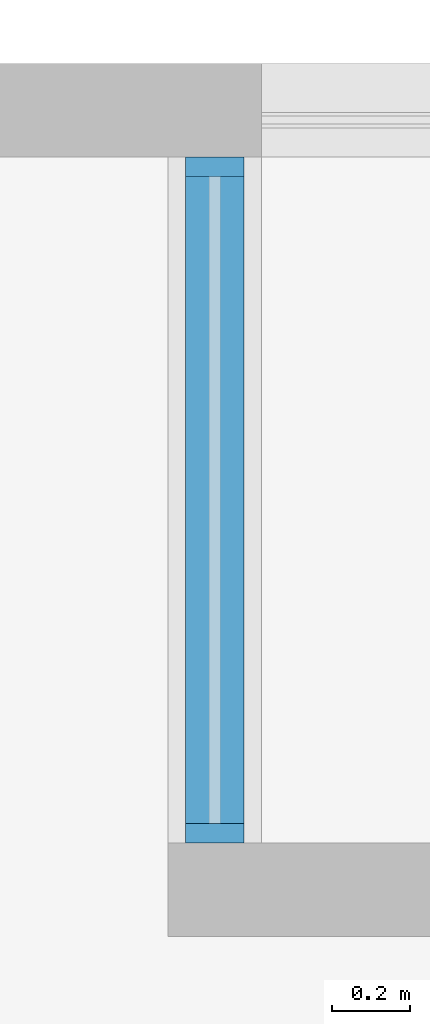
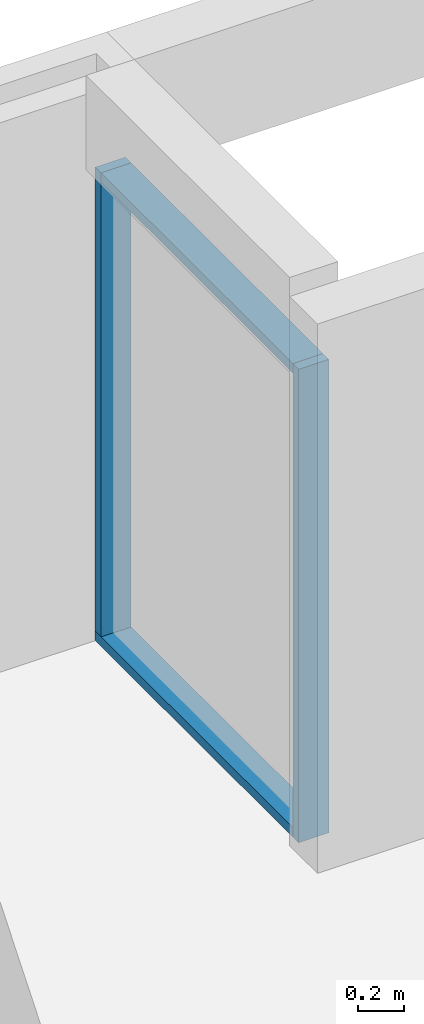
# One storey, part 2 of 16: 4 members, 1 element without a shape of its own.
"""IFC2X3 building model written with IfcOpenShell, lengths in millimetres."""

from ifc_helpers import new_model, entity, si_unit, converted_unit, derived_unit, direction, frame, origin, origin_2d_with_axis, place, context, subcontext, project, spatial, rectangle, extrude, source, transform, mapped, material, type_object, type_shapes, element, aggregate, save


model = new_model("IFC2X3")

# Units and contexts
model_context = context("Model", 3, precision=0.01, world=origin(), true_north=direction((6.12303176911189e-17, 1.0)))
body_context = subcontext(model_context, "Body", "Model", "MODEL_VIEW")
ifc_project = project(units=[si_unit("LENGTHUNIT", "METRE", prefix="MILLI"), si_unit("AREAUNIT", "SQUARE_METRE"), si_unit("VOLUMEUNIT", "CUBIC_METRE"), converted_unit("PLANEANGLEUNIT", "DEGREE", entity("IfcRatioMeasure", 0.0174532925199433), si_unit("PLANEANGLEUNIT", "RADIAN"), dimensions=[0, 0, 0, 0, 0, 0, 0]), si_unit("MASSUNIT", "GRAM", prefix="KILO"), derived_unit("MASSDENSITYUNIT", [(si_unit("MASSUNIT", "GRAM", prefix="KILO"), 1), (si_unit("LENGTHUNIT", "METRE"), -3)]), si_unit("TIMEUNIT", "SECOND"), si_unit("FREQUENCYUNIT", "HERTZ"), si_unit("THERMODYNAMICTEMPERATUREUNIT", "DEGREE_CELSIUS"), derived_unit("THERMALTRANSMITTANCEUNIT", [(si_unit("MASSUNIT", "GRAM", prefix="KILO"), 1), (si_unit("THERMODYNAMICTEMPERATUREUNIT", "KELVIN"), -1), (si_unit("TIMEUNIT", "SECOND"), -3)]), derived_unit("VOLUMETRICFLOWRATEUNIT", [(si_unit("LENGTHUNIT", "METRE"), 3), (si_unit("TIMEUNIT", "SECOND"), -1)]), si_unit("ELECTRICCURRENTUNIT", "AMPERE"), si_unit("ELECTRICVOLTAGEUNIT", "VOLT"), si_unit("POWERUNIT", "WATT"), si_unit("FORCEUNIT", "NEWTON", prefix="KILO"), si_unit("ILLUMINANCEUNIT", "LUX"), si_unit("LUMINOUSFLUXUNIT", "LUMEN"), si_unit("LUMINOUSINTENSITYUNIT", "CANDELA"), derived_unit("USERDEFINED", [(si_unit("MASSUNIT", "GRAM", prefix="KILO"), -1), (si_unit("LENGTHUNIT", "METRE"), -2), (si_unit("TIMEUNIT", "SECOND"), 3), (si_unit("LUMINOUSFLUXUNIT", "LUMEN"), 1)]), derived_unit("LINEARVELOCITYUNIT", [(si_unit("LENGTHUNIT", "METRE"), 1), (si_unit("TIMEUNIT", "SECOND"), -1)]), si_unit("PRESSUREUNIT", "PASCAL"), derived_unit("USERDEFINED", [(si_unit("LENGTHUNIT", "METRE"), -2), (si_unit("MASSUNIT", "GRAM", prefix="KILO"), 1), (si_unit("TIMEUNIT", "SECOND"), -2)])], contexts=[model_context])

# Site, building, storey
site_placement = place(None, origin())
site = spatial("IfcSite", under=ifc_project, at=site_placement, Name="表面", CompositionType="ELEMENT")
building_placement = place(site_placement, origin())
building = spatial("IfcBuilding", under=site, at=building_placement, CompositionType="ELEMENT")
storey_placement = place(building_placement, frame((0.0, 0.0, 3000.0)))
storey = spatial("IfcBuildingStorey", under=building, at=storey_placement, Name="2F", CompositionType="ELEMENT", Elevation=3000.00000000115)

# Curtain wall, members
curtain_wall_type = type_object("IfcCurtainWallType", Name="幕墙:幕墙 2", PredefinedType="NOTDEFINED")
curtain_wall_placement = place(storey_placement, frame((0.0, 0.0, -3000.0)))
curtain_wall = element("IfcCurtainWall", 1, at=curtain_wall_placement, inside=storey, type_object=curtain_wall_type, Name="幕墙:幕墙 2", ObjectType="幕墙:幕墙 2")
ifc_material = material(Name="金属 - 铝")
member_type_1 = type_object("IfcMemberType", Name="50 x 150mm", PredefinedType="MEMBER")
shared_shape_1 = source(origin(), body_context, "Body", "SweptSolid", [
    extrude(rectangle(XDim=150.0, YDim=50.0, at=origin_2d_with_axis()), frame((-25.0, 0.0, -1660.0), z_axis=(0.0, 0.0, 1.0), x_axis=(0.0, -1.0, 0.0)), (0.0, 0.0, 1.0), 1660.0),
])
type_shapes(member_type_1, [shared_shape_1])
member_1_placement = place(storey_placement, frame((-12030.2499126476, 3853.13157334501, 2500.0), z_axis=(0.0, -1.0, 0.0), x_axis=(0.0, 0.0, 1.0)))
member_1 = element("IfcMember", 2, at=member_1_placement, type_object=member_type_1, material=ifc_material, Name="矩形竖梃:50 x 150mm", ObjectType="50 x 150mm", context=body_context, shape_type="MappedRepresentation", body=[
    mapped(shared_shape_1, transform((0.0, 0.0, 0.0), scale=1.0)),
])
member_type_2 = type_object("IfcMemberType", Name="50 x 150mm", PredefinedType="MEMBER")
shared_shape_2 = source(origin(), body_context, "Body", "SweptSolid", [
    extrude(rectangle(XDim=150.0, YDim=50.0, at=origin_2d_with_axis()), frame((-25.0, 0.0, -1710.0), z_axis=(0.0, 0.0, 1.0), x_axis=(0.0, -1.0, 0.0)), (0.0, 0.0, 1.0), 1710.0),
])
type_shapes(member_type_2, [shared_shape_2])
member_2_placement = place(storey_placement, frame((-12030.2499126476, 5563.13157334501, 0.0), z_axis=(0.0, 1.0, 0.0), x_axis=(0.0, 0.0, -1.0)))
member_2 = element("IfcMember", 3, at=member_2_placement, type_object=member_type_2, material=ifc_material, Name="矩形竖梃:50 x 150mm", ObjectType="50 x 150mm", context=body_context, shape_type="MappedRepresentation", body=[
    mapped(shared_shape_2, transform((0.0, 0.0, 0.0), scale=1.0)),
])
member_type_3 = type_object("IfcMemberType", Name="50 x 150mm", PredefinedType="MEMBER")
shared_shape_3 = source(origin(), body_context, "Body", "SweptSolid", [
    extrude(rectangle(XDim=150.0, YDim=50.0, at=origin_2d_with_axis()), frame((-25.0, 0.0, -2500.0), z_axis=(0.0, 0.0, 1.0), x_axis=(0.0, -1.0, 0.0)), (0.0, 0.0, 1.0), 2500.0),
])
type_shapes(member_type_3, [shared_shape_3])
member_3_placement = place(storey_placement, frame((-12030.2499126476, 3803.13157334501, 0.0), z_axis=(0.0, 0.0, -1.0), x_axis=(0.0, -1.0, 0.0)))
member_3 = element("IfcMember", 4, at=member_3_placement, type_object=member_type_3, material=ifc_material, Name="矩形竖梃:50 x 150mm", ObjectType="50 x 150mm", context=body_context, shape_type="MappedRepresentation", body=[
    mapped(shared_shape_3, transform((0.0, 0.0, 0.0), scale=1.0)),
])
member_type_4 = type_object("IfcMemberType", Name="50 x 150mm", PredefinedType="MEMBER")
shared_shape_4 = source(origin(), body_context, "Body", "SweptSolid", [
    extrude(rectangle(XDim=150.0, YDim=50.0, at=origin_2d_with_axis()), frame((-25.0, 0.0, -2450.0), z_axis=(0.0, 0.0, 1.0), x_axis=(0.0, -1.0, 0.0)), (0.0, 0.0, 1.0), 2450.0),
])
type_shapes(member_type_4, [shared_shape_4])
member_4_placement = place(storey_placement, frame((-12030.2499126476, 5563.13157334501, 2500.0), z_axis=(0.0, 0.0, 1.0), x_axis=(0.0, 1.0, 0.0)))
member_4 = element("IfcMember", 5, at=member_4_placement, type_object=member_type_4, material=ifc_material, Name="矩形竖梃:50 x 150mm", ObjectType="50 x 150mm", context=body_context, shape_type="MappedRepresentation", body=[
    mapped(shared_shape_4, transform((0.0, 0.0, 0.0), scale=1.0)),
])
aggregate(curtain_wall, [member_1, member_2, member_3, member_4])

save(model, "model.ifc")
